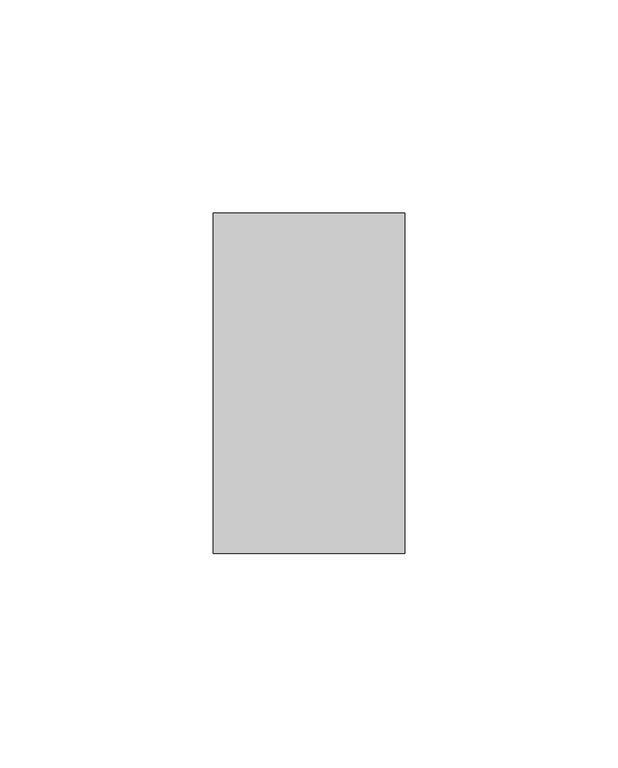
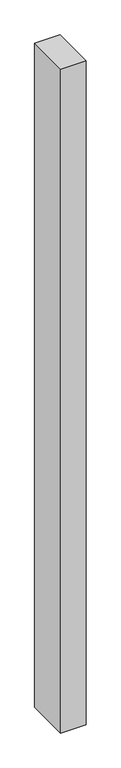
"""IFC4 building model written with IfcOpenShell, lengths in millimetres: member geometry, Obdélníková příčel : VERTI ELEMENT - vertikální."""

from ifc_helpers import new_model, si_unit, frame, origin, place, context, project, spatial, polyline, outline, extrude, source, transform, mapped, element, save


def member_06365ca1(model_context):
    return source(origin(), model_context, "Body", "SweptSolid", [
        extrude(outline(polyline([(-45.0, 40.0), (0.0, 40.0), (0.0, -40.0), (-45.0, -40.0), (-45.0, 40.0)])), frame((0.0, 0.0, -1245.0), z_axis=(0.0, 0.0, 1.0), x_axis=(1.0, 0.0, 0.0)), (0.0, 0.0, 1.0), 1245.0),
    ])


if __name__ == "__main__":
    model = new_model("IFC4")
    model_context = context("Model", 3, world=origin())
    ifc_project = project(units=[si_unit("LENGTHUNIT", "METRE", prefix="MILLI")], contexts=[model_context])
    site = spatial("IfcSite", under=ifc_project)
    building = spatial("IfcBuilding", under=site)
    placement = place(None, origin())
    member_shape = member_06365ca1(model_context)
    element("IfcMember", 1, ObjectType="Obdélníková příčel : VERTI ELEMENT - vertikální", at=placement, inside=building, context=model_context, shape_type="MappedRepresentation", body=[
        mapped(member_shape, transform((0.0, 0.0, 0.0), x_axis=(1.0, 0.0, 0.0), y_axis=(0.0, 1.0, 0.0), z_axis=(0.0, 0.0, 1.0))),
    ])
    save(model, "model.ifc")
